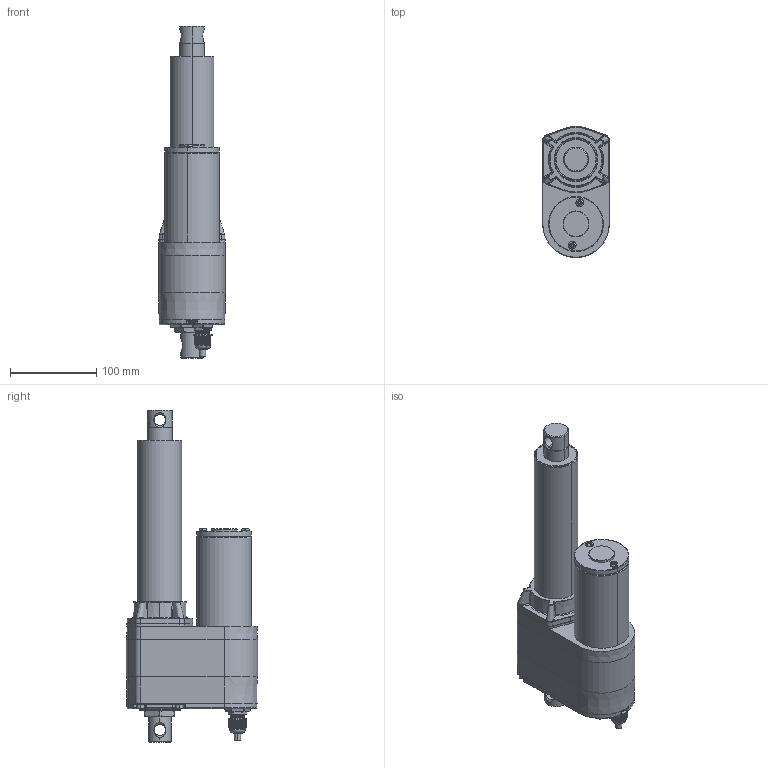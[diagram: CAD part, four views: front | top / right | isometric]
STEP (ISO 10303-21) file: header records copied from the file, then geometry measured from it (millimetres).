
FILE_DESCRIPTION (( 'STEP AP203' ), '1' );
FILE_NAME ('ID10-A-102-LT-IP69K.STEP', '2022-10-04T09:26:39', ( '' ), ( '' ), 'SwSTEP 2.0', 'SolidWorks 2020', '' );
FILE_SCHEMA (( 'CONFIG_CONTROL_DESIGN' ));
Length unit declared in the file: millimetre
Products named in the file (3): ID10-A-LT-2-IP69K; ID10-A-102-LT-IP69K; ID10-A-LT-1-IP69K
Assembly tree (2 placements, depth 2):
  ID10-A-102-LT-IP69K
    ID10-A-LT-1-IP69K
    ID10-A-LT-2-IP69K
Bounding box: 77.3 x 151.8 x 384.5 mm (x, y, z)
Volume: 116689.2 mm3; surface area: 177768.7 mm2
Topology: 23 solids, 24 shells, 2285 faces, 5894 edges, 3693 vertices
Faces by surface type: plane 1108, cylinder 659, bspline 259, cone 137, torus 98, sphere 24
Entity records: 82905 total; most frequent: CARTESIAN_POINT 31084, ORIENTED_EDGE 11720, DIRECTION 9692, EDGE_CURVE 5860, VERTEX_POINT 3693, AXIS2_PLACEMENT_3D 3588, VECTOR 2516, LINE 2516
